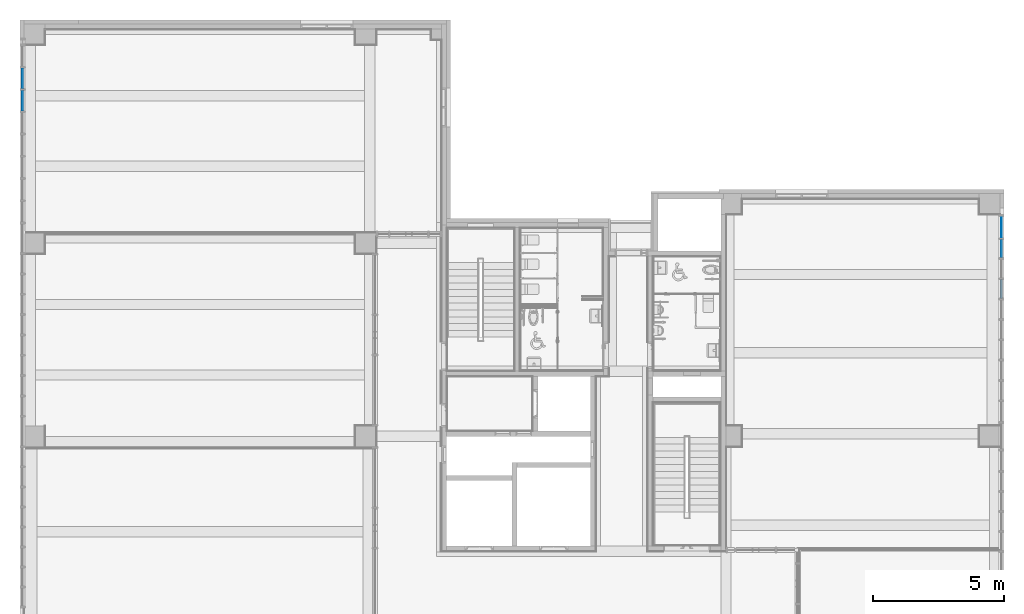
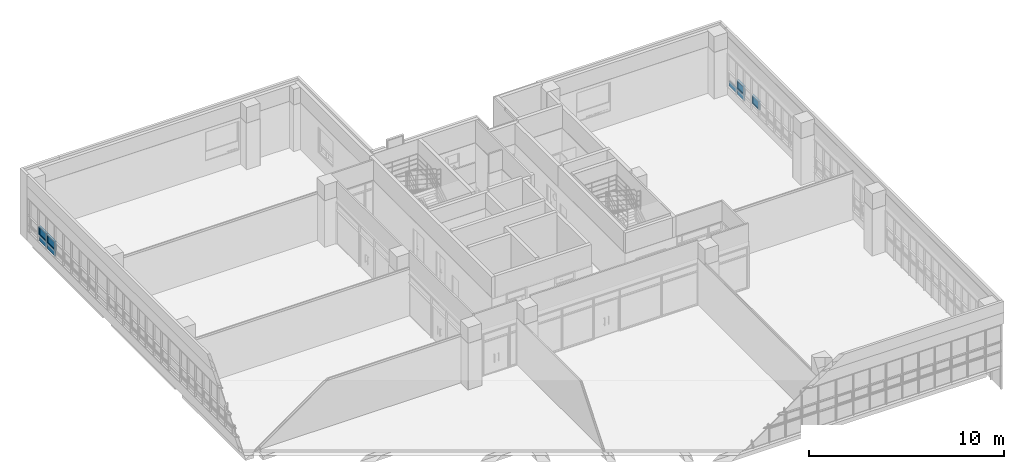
# One storey, part 40 of 81: 8 plates, 2 elements without a shape of their own.
"""IFC2X3 building model written with IfcOpenShell, lengths in millimetres."""

import ifcopenshell
import ifcopenshell.guid

model = None  # the IFC model being written
_history = None  # IfcOwnerHistory: only IFC2X3 demands one
_inside = {}  # id of a spatial element -> (the spatial element, [elements in it])
_under = {}  # id of a project, library or spatial element -> (it, [spatial elements below it])
_declared = {}  # id of a project -> (the project, [libraries it declares])
_typed = {}  # id of a type object -> (the type object, [elements of that type])
_made_of = {}  # id of a material, layer set ... -> (it, [elements and type objects made of it])


def new_model(schema):
    """Start an empty IFC model of exactly this schema.

    Asked for "IFC4X3", IfcOpenShell would pick the latest addendum, in which some entities
    have other attributes; the version numbers below select the first issue.
    IFC2X3 requires an IfcOwnerHistory on every rooted entity: one is made here for all.
    """
    global model, _history
    if schema == "IFC4X3":
        model = ifcopenshell.file(schema_version=(4, 3, 0, 0))
    else:
        model = ifcopenshell.file(schema=schema)
    _inside.clear()
    _under.clear()
    _declared.clear()
    _typed.clear()
    _made_of.clear()
    _history = None
    if model.schema == "IFC2X3":
        org = make("IfcOrganization", Name="unknown")
        user = make(
            "IfcPersonAndOrganization",
            ThePerson=make("IfcPerson", FamilyName="unknown"),
            TheOrganization=org,
        )
        app = make(
            "IfcApplication",
            ApplicationDeveloper=org,
            Version="unknown",
            ApplicationFullName="unknown",
            ApplicationIdentifier="unknown",
        )
        _history = make(
            "IfcOwnerHistory",
            OwningUser=user,
            OwningApplication=app,
            ChangeAction="ADDED",
            CreationDate=0,
        )
    return model


def make(cls, **values):
    """One entity of the class cls with the attributes given. An attribute that is None is left unset."""
    return model.create_entity(
        cls, **{name: value for name, value in values.items() if value is not None}
    )


def entity(cls, *values):
    """Any entity or typed value of the class cls, its attributes in the order of the schema. None: left unset."""
    e = model.create_entity(cls)
    for i, value in enumerate(values):
        if value is not None:
            e[i] = value
    return e


def rooted(cls, **values):
    """An entity with a GlobalId (a new one), such as an element, a storey or a relation."""
    return make(cls, GlobalId=ifcopenshell.guid.new(), OwnerHistory=_history, **values)


def si_unit(unit_type, name, prefix=None):
    """IfcSIUnit, for example si_unit("LENGTHUNIT", "METRE", prefix="MILLI")."""
    return make("IfcSIUnit", UnitType=unit_type, Prefix=prefix, Name=name)


def converted_unit(unit_type, name, factor, base, dimensions=None, offset=None):
    """IfcConversionBasedUnit, such as the inch: factor (a typed value) times the base unit."""
    return make(
        "IfcConversionBasedUnit"
        if offset is None
        else "IfcConversionBasedUnitWithOffset",
        ConversionOffset=offset,
        Dimensions=None
        if dimensions is None
        else entity("IfcDimensionalExponents", *dimensions),
        UnitType=unit_type,
        Name=name,
        ConversionFactor=make(
            "IfcMeasureWithUnit", ValueComponent=factor, UnitComponent=base
        ),
    )


def derived_unit(unit_type, elements):
    """IfcDerivedUnit: a product of units, each with its exponent."""
    return make(
        "IfcDerivedUnit",
        Elements=[
            make("IfcDerivedUnitElement", Unit=unit, Exponent=power)
            for unit, power in elements
        ],
        UnitType=unit_type,
    )


def assignment(units):
    """IfcUnitAssignment: the units of a project."""
    return None if units is None else make("IfcUnitAssignment", Units=units)


def point(xyz):
    """IfcCartesianPoint."""
    return None if xyz is None else make("IfcCartesianPoint", Coordinates=xyz)


def direction(xyz):
    """IfcDirection."""
    return None if xyz is None else make("IfcDirection", DirectionRatios=xyz)


def frame(location, z_axis=None, x_axis=None):
    """IfcAxis2Placement3D, a coordinate frame: its origin and axes. An axis left out is left unset."""
    return make(
        "IfcAxis2Placement3D",
        Location=point(location),
        Axis=direction(z_axis),
        RefDirection=direction(x_axis),
    )


def frame_2d(location, x_axis=None):
    """IfcAxis2Placement2D, a coordinate frame in the plane: its origin and x axis."""
    return make(
        "IfcAxis2Placement2D", Location=point(location), RefDirection=direction(x_axis)
    )


def origin():
    """The frame at (0, 0, 0) with its axes left unset."""
    return frame((0.0, 0.0, 0.0))


def origin_2d_with_axis():
    """The frame at (0, 0) in the plane with the x axis (1, 0) written out."""
    return frame_2d((0.0, 0.0), x_axis=(1.0, 0.0))


def place(relative_to, where):
    """IfcLocalPlacement: puts the frame where relative to a parent placement (None: the world)."""
    return make(
        "IfcLocalPlacement", PlacementRelTo=relative_to, RelativePlacement=where
    )


def context(
    kind, dimensions, precision=None, world=None, true_north=None, identifier=None
):
    """IfcGeometricRepresentationContext, for example the 3D "Model" context."""
    return make(
        "IfcGeometricRepresentationContext",
        ContextIdentifier=identifier,
        ContextType=kind,
        CoordinateSpaceDimension=dimensions,
        Precision=precision,
        WorldCoordinateSystem=world,
        TrueNorth=true_north,
    )


def subcontext(parent, identifier, kind, view, scale=None):
    """IfcGeometricRepresentationSubContext, for example "Body" below "Model"."""
    return make(
        "IfcGeometricRepresentationSubContext",
        ContextIdentifier=identifier,
        ContextType=kind,
        ParentContext=parent,
        TargetScale=scale,
        TargetView=view,
    )


def project(units=None, contexts=None):
    """IfcProject with its units and contexts."""
    return rooted(
        "IfcProject",
        Name="project",
        RepresentationContexts=contexts,
        UnitsInContext=assignment(units),
    )


def spatial(cls, under=None, at=None, **own):
    """A site, building, storey or space (cls), placed at a placement, below another one or the project."""
    s = rooted(cls, ObjectPlacement=at, **own)
    if under is not None:
        _under.setdefault(under.id(), (under, []))[1].append(s)
    return s


def polyline(points):
    """IfcPolyline through the points."""
    return make("IfcPolyline", Points=[point(p) for p in points])


def profile(cls, at=None, kind="AREA", **sizes):
    """A parametric profile (cls). Its sizes go by their IFC names, for example OverallWidth=200.0."""
    return make(cls, ProfileType=kind, Position=at, **sizes)


def rectangle(**sizes):
    """IfcRectangleProfileDef."""
    return profile("IfcRectangleProfileDef", **sizes)


def outline(outer, holes=None, kind="AREA"):
    """IfcArbitraryClosedProfileDef: a profile drawn as a closed curve; with holes, ...WithVoids."""
    if holes is None:
        return make("IfcArbitraryClosedProfileDef", ProfileType=kind, OuterCurve=outer)
    return make(
        "IfcArbitraryProfileDefWithVoids",
        ProfileType=kind,
        OuterCurve=outer,
        InnerCurves=holes,
    )


def extrude(swept, where, along, depth):
    """IfcExtrudedAreaSolid: the profile swept, set in the frame where, extruded along a direction by depth."""
    return make(
        "IfcExtrudedAreaSolid",
        SweptArea=swept,
        Position=where,
        ExtrudedDirection=direction(along),
        Depth=depth,
    )


def shape(context_of_items, identifier, shape_type, items):
    """IfcShapeRepresentation: the items that make up one representation, for example the "Body"."""
    return make(
        "IfcShapeRepresentation",
        ContextOfItems=context_of_items,
        RepresentationIdentifier=identifier,
        RepresentationType=shape_type,
        Items=items,
    )


def source(mapping_origin, context_of_items, identifier, shape_type, items):
    """IfcRepresentationMap: a shape defined once, which mapped items show again and again."""
    return make(
        "IfcRepresentationMap",
        MappingOrigin=mapping_origin,
        MappedRepresentation=shape(context_of_items, identifier, shape_type, items),
    )


def transform(
    local_origin,
    x_axis=None,
    y_axis=None,
    z_axis=None,
    scale=None,
    scale2=None,
    scale3=None,
    uniform=True,
):
    """IfcCartesianTransformationOperator3D, or its non-uniform kind. x_axis, y_axis, z_axis: its Axis1, 2, 3."""
    if uniform:
        return make(
            "IfcCartesianTransformationOperator3D",
            Axis1=direction(x_axis),
            Axis2=direction(y_axis),
            LocalOrigin=point(local_origin),
            Scale=scale,
            Axis3=direction(z_axis),
        )
    return make(
        "IfcCartesianTransformationOperator3DnonUniform",
        Axis1=direction(x_axis),
        Axis2=direction(y_axis),
        LocalOrigin=point(local_origin),
        Scale=scale,
        Axis3=direction(z_axis),
        Scale2=scale2,
        Scale3=scale3,
    )


def mapped(mapping_source, mapping_target):
    """IfcMappedItem: shows the shape of a source again, moved by a transform."""
    return make(
        "IfcMappedItem", MappingSource=mapping_source, MappingTarget=mapping_target
    )


def material(Name=None, Category=None):
    """IfcMaterial."""
    return make("IfcMaterial", Name=Name, Category=Category)


def material_list(materials):
    """IfcMaterialList."""
    return make("IfcMaterialList", Materials=materials)


def made_of(thing, what):
    """Note that an element or type object is made of a material, layer set ...; save() writes the relation."""
    if what is not None:
        _made_of.setdefault(what.id(), (what, []))[1].append(thing)
    return thing


def type_object(cls, material=None, **own):
    """A type object (cls), such as IfcWallType, which elements share."""
    return made_of(rooted(cls, **own), material)


def type_shapes(of_type, sources):
    """Give a type object the sources (RepresentationMaps) that its elements show as mapped items."""
    of_type.RepresentationMaps = sources


def element(
    cls,
    number,
    at=None,
    inside=None,
    cuts=None,
    type_object=None,
    material=None,
    context=None,
    identifier="Body",
    shape_type=None,
    held_by="IfcProductDefinitionShape",
    body=None,
    shapes=None,
    **own,
):
    """One element of the class cls, such as IfcWall. Its Tag is "e" and its number.

    at: its placement. inside: the storey or other place that contains it. cuts: it is an
    opening in that element (IfcRelVoidsElement). A single representation is given by context,
    identifier, shape_type and body (its items); several are given by shapes. held_by: the class
    of the entity that holds the representations. save() writes the other relations.
    """
    e = rooted(cls, Tag="e%d" % number, ObjectPlacement=at, **own)
    if body is not None:
        shapes = [shape(context, identifier, shape_type, body)]
    if shapes is not None:
        e.Representation = make(held_by, Representations=shapes)
    if inside is not None:
        _inside.setdefault(inside.id(), (inside, []))[1].append(e)
    if cuts is not None:
        rooted(
            "IfcRelVoidsElement", RelatingBuildingElement=cuts, RelatedOpeningElement=e
        )
    if type_object is not None:
        _typed.setdefault(type_object.id(), (type_object, []))[1].append(e)
    return made_of(e, material)


def aggregate(whole, parts):
    """IfcRelAggregates: a whole, such as a stair, and the parts it consists of."""
    return rooted("IfcRelAggregates", RelatingObject=whole, RelatedObjects=parts)


def save(model, path):
    """Write the relations noted so far, then the file.

    IfcRelAggregates (storeys below a building ...), IfcRelContainedInSpatialStructure (elements
    in a storey), IfcRelDefinesByType, IfcRelAssociatesMaterial and IfcRelDeclares: one each for
    every whole, place, type object, material and project.
    """
    for whole, parts in _under.values():
        aggregate(whole, parts)
    for where, things in _inside.values():
        rooted(
            "IfcRelContainedInSpatialStructure",
            RelatedElements=things,
            RelatingStructure=where,
        )
    for kind, things in _typed.values():
        rooted("IfcRelDefinesByType", RelatedObjects=things, RelatingType=kind)
    for what, things in _made_of.values():
        rooted("IfcRelAssociatesMaterial", RelatedObjects=things, RelatingMaterial=what)
    for by, libraries in _declared.values():
        rooted("IfcRelDeclares", RelatingContext=by, RelatedDefinitions=libraries)
    model.write(path)


model = new_model("IFC2X3")

# Units and contexts
model_context = context("Model", 3, precision=0.01, world=origin(), true_north=direction((6.123031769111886e-17, 1.0)))
body_context = subcontext(model_context, "Body", "Model", "MODEL_VIEW")
ifc_project = project(units=[si_unit("LENGTHUNIT", "METRE", prefix="MILLI"), si_unit("AREAUNIT", "SQUARE_METRE"), si_unit("VOLUMEUNIT", "CUBIC_METRE"), converted_unit("PLANEANGLEUNIT", "DEGREE", entity("IfcRatioMeasure", 0.017453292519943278), si_unit("PLANEANGLEUNIT", "RADIAN"), dimensions=[0, 0, 0, 0, 0, 0, 0]), si_unit("MASSUNIT", "GRAM", prefix="KILO"), derived_unit("MASSDENSITYUNIT", [(si_unit("MASSUNIT", "GRAM", prefix="KILO"), 1), (si_unit("LENGTHUNIT", "METRE"), -3)]), derived_unit("MOMENTOFINERTIAUNIT", [(si_unit("LENGTHUNIT", "METRE"), 4)]), si_unit("TIMEUNIT", "SECOND"), si_unit("FREQUENCYUNIT", "HERTZ"), si_unit("THERMODYNAMICTEMPERATUREUNIT", "DEGREE_CELSIUS"), derived_unit("THERMALTRANSMITTANCEUNIT", [(si_unit("MASSUNIT", "GRAM", prefix="KILO"), 1), (si_unit("THERMODYNAMICTEMPERATUREUNIT", "KELVIN"), -1), (si_unit("TIMEUNIT", "SECOND"), -3)]), derived_unit("VOLUMETRICFLOWRATEUNIT", [(si_unit("LENGTHUNIT", "METRE"), 3), (si_unit("TIMEUNIT", "SECOND"), -1)]), derived_unit("MASSFLOWRATEUNIT", [(si_unit("MASSUNIT", "GRAM", prefix="KILO"), 1), (si_unit("TIMEUNIT", "SECOND"), -1)]), derived_unit("ROTATIONALFREQUENCYUNIT", [(si_unit("TIMEUNIT", "SECOND"), -1)]), si_unit("ELECTRICCURRENTUNIT", "AMPERE"), si_unit("ELECTRICVOLTAGEUNIT", "VOLT"), si_unit("POWERUNIT", "WATT"), si_unit("FORCEUNIT", "NEWTON", prefix="KILO"), si_unit("ILLUMINANCEUNIT", "LUX"), si_unit("LUMINOUSFLUXUNIT", "LUMEN"), si_unit("LUMINOUSINTENSITYUNIT", "CANDELA"), derived_unit("USERDEFINED", [(si_unit("MASSUNIT", "GRAM", prefix="KILO"), -1), (si_unit("LENGTHUNIT", "METRE"), -2), (si_unit("TIMEUNIT", "SECOND"), 3), (si_unit("LUMINOUSFLUXUNIT", "LUMEN"), 1)]), derived_unit("SOUNDPOWERUNIT", [(si_unit("MASSUNIT", "GRAM", prefix="KILO"), 1), (si_unit("LENGTHUNIT", "METRE"), 2), (si_unit("TIMEUNIT", "SECOND"), -3)]), derived_unit("SOUNDPRESSUREUNIT", [(si_unit("MASSUNIT", "GRAM", prefix="KILO"), 1), (si_unit("LENGTHUNIT", "METRE"), -1), (si_unit("TIMEUNIT", "SECOND"), -2)]), derived_unit("LINEARVELOCITYUNIT", [(si_unit("LENGTHUNIT", "METRE"), 1), (si_unit("TIMEUNIT", "SECOND"), -1)]), si_unit("PRESSUREUNIT", "PASCAL"), derived_unit("USERDEFINED", [(si_unit("LENGTHUNIT", "METRE"), -2), (si_unit("MASSUNIT", "GRAM", prefix="KILO"), 1), (si_unit("TIMEUNIT", "SECOND"), -2)]), derived_unit("LINEARFORCEUNIT", [(si_unit("MASSUNIT", "GRAM", prefix="KILO"), 1), (si_unit("LENGTHUNIT", "METRE"), 1), (si_unit("TIMEUNIT", "SECOND"), -2), (si_unit("LENGTHUNIT", "METRE"), -1)]), derived_unit("PLANARFORCEUNIT", [(si_unit("MASSUNIT", "GRAM", prefix="KILO"), 1), (si_unit("LENGTHUNIT", "METRE"), 1), (si_unit("TIMEUNIT", "SECOND"), -2), (si_unit("LENGTHUNIT", "METRE"), -2)])], contexts=[model_context])

# Site, building, storey
site_placement = place(None, frame((-14167.972527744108, -657.2125860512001, 0.0)))
site = spatial("IfcSite", under=ifc_project, at=site_placement, Name="Default", CompositionType="ELEMENT")
building_placement = place(site_placement, origin())
building = spatial("IfcBuilding", under=site, at=building_placement, Name="Sample Building", CompositionType="ELEMENT")
storey_placement = place(building_placement, frame((0.0, 0.0, 13400.0)))
storey = spatial("IfcBuildingStorey", under=building, at=storey_placement, Name="지상 4층", CompositionType="ELEMENT", Elevation=13400.00000000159)

# Curtain wall, plates
curtain_wall_type = type_object("IfcCurtainWallType", Name="커튼월:CW112-스테인리스 스틸 커튼월", PredefinedType="NOTDEFINED")
curtain_wall_1_placement = place(storey_placement, frame((0.0, 0.0, -13400.0)))
curtain_wall_1 = element("IfcCurtainWall", 1, at=curtain_wall_1_placement, inside=storey, type_object=curtain_wall_type, Name="커튼월:CW112-스테인리스 스틸 커튼월", ObjectType="커튼월:CW112-스테인리스 스틸 커튼월")
ifc_material_1 = material(Name="KBIMS-로이유리(코팅)")
plate_type_1 = type_object("IfcPlateType", Name="CW300-THK24.Low-e coating glass:CW300-THK24.Low-e coating glass", PredefinedType="CURTAIN_PANEL", material=ifc_material_1)
shared_shape_1 = source(origin(), body_context, "Body", "SweptSolid", [
    extrude(rectangle(XDim=803.5000000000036, YDim=24.000000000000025, at=origin_2d_with_axis()), frame((0.0, 0.0, 0.0), z_axis=(0.0, 0.0, 1.0), x_axis=(-1.0, 0.0, 0.0)), (0.0, 0.0, 1.0), 324.9999999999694),
])
type_shapes(plate_type_1, [shared_shape_1])
plate_1_placement = place(curtain_wall_1_placement, frame((14018.570555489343, 33673.56770709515, 14050.0), z_axis=(0.0, 0.0, 1.0), x_axis=(0.0, -1.0, 0.0)))
plate_1 = element("IfcPlate", 2, at=plate_1_placement, type_object=plate_type_1, material=ifc_material_1, Name="CW300-THK24.Low-e coating glass:CW300-THK24.Low-e coating glass", ObjectType="CW300-THK24.Low-e coating glass:CW300-THK24.Low-e coating glass", context=body_context, shape_type="MappedRepresentation", body=[
    mapped(shared_shape_1, transform((0.0, 0.0, 0.0), scale=1.0)),
])
plate_2_placement = place(curtain_wall_1_placement, frame((14018.570555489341, 32820.06770709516, 14050.0), z_axis=(0.0, 0.0, 1.0), x_axis=(0.0, -1.0, 0.0)))
plate_2 = element("IfcPlate", 3, at=plate_2_placement, type_object=plate_type_1, material=ifc_material_1, Name="CW300-THK24.Low-e coating glass:CW300-THK24.Low-e coating glass", ObjectType="CW300-THK24.Low-e coating glass:CW300-THK24.Low-e coating glass", context=body_context, shape_type="MappedRepresentation", body=[
    mapped(shared_shape_1, transform((0.0, 0.0, 0.0), scale=1.0)),
])
ifc_material_2 = material(Name="KBIMS-유리")
ifc_material_3 = material(Name="KBIMS-알루미늄")
ifc_material_list_1 = material_list([ifc_material_2, ifc_material_3])
ifc_material_list_2 = material_list([ifc_material_2, ifc_material_3])
plate_type_2 = type_object("IfcPlateType", Name="CW410-프로젝트 창:CW410-프로젝트 창 (하부개폐)", PredefinedType="CURTAIN_PANEL", material=ifc_material_list_2)
shared_shape_2 = source(origin(), body_context, "Body", "SweptSolid", [
    extrude(rectangle(XDim=703.5000000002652, YDim=23.999999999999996, at=origin_2d_with_axis()), frame((0.0, -0.04999999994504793, 50.0), z_axis=(0.0, 0.0, 1.0), x_axis=(-1.0, 0.0, 0.0)), (0.0, 0.0, 1.0), 450.00000000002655),
    extrude(outline(polyline([(-401.750000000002, -275.0), (401.750000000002, -275.0), (401.750000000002, 275.0), (-401.750000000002, 275.0), (-401.750000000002, -275.0)]), holes=[polyline([(-351.75000000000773, -225.0), (-351.7500000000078, 225.0), (351.7500000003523, 225.0), (351.75000000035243, -225.0), (-351.75000000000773, -225.0)])]), frame((0.0, -50.04999999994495, 275.0), z_axis=(0.0, 1.0, 0.0), x_axis=(1.0, 0.0, 0.0)), (0.0, 0.0, 1.0), 99.99999999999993),
])
type_shapes(plate_type_2, [shared_shape_2])
plate_3_placement = place(curtain_wall_1_placement, frame((14018.570555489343, 33673.56770709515, 14425.0), z_axis=(0.0, 0.0, 1.0), x_axis=(0.0, -1.0, 0.0)))
plate_3 = element("IfcPlate", 4, at=plate_3_placement, type_object=plate_type_2, material=ifc_material_list_1, Name="CW410-프로젝트 창:CW410-프로젝트 창 (하부개폐)", ObjectType="CW410-프로젝트 창:CW410-프로젝트 창 (하부개폐)", context=body_context, shape_type="MappedRepresentation", body=[
    mapped(shared_shape_2, transform((0.0, 0.0, 0.0), scale=1.0)),
])
ifc_material_list_3 = material_list([ifc_material_2, ifc_material_3])
plate_4_placement = place(curtain_wall_1_placement, frame((14018.570555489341, 32820.06770709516, 14425.0), z_axis=(0.0, 0.0, 1.0), x_axis=(0.0, -1.0, 0.0)))
plate_4 = element("IfcPlate", 5, at=plate_4_placement, type_object=plate_type_2, material=ifc_material_list_3, Name="CW410-프로젝트 창:CW410-프로젝트 창 (하부개폐)", ObjectType="CW410-프로젝트 창:CW410-프로젝트 창 (하부개폐)", context=body_context, shape_type="MappedRepresentation", body=[
    mapped(shared_shape_2, transform((0.0, 0.0, 0.0), scale=1.0)),
])
aggregate(curtain_wall_1, [plate_1, plate_2, plate_3, plate_4])

curtain_wall_2_placement = place(storey_placement, frame((0.0, 0.0, -13400.0)))
curtain_wall_2 = element("IfcCurtainWall", 6, at=curtain_wall_2_placement, inside=storey, type_object=curtain_wall_type, Name="커튼월:CW112-스테인리스 스틸 커튼월", ObjectType="커튼월:CW112-스테인리스 스틸 커튼월")
ifc_material_list_4 = material_list([ifc_material_2, ifc_material_3])
ifc_material_list_5 = material_list([ifc_material_2, ifc_material_3])
plate_type_3 = type_object("IfcPlateType", Name="CW410-프로젝트 창:CW410-프로젝트 창 (하부개폐)", PredefinedType="CURTAIN_PANEL", material=ifc_material_list_5)
shared_shape_3 = source(origin(), body_context, "Body", "SweptSolid", [
    extrude(rectangle(XDim=23.999999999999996, YDim=600.0000000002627, at=origin_2d_with_axis()), frame((0.0, 0.04999999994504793, 50.0), z_axis=(0.0, 0.0, 1.0), x_axis=(0.0, 1.0, 0.0)), (0.0, 0.0, 1.0), 450.0000000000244),
    extrude(outline(polyline([(-350.0, -275.0), (350.0, -275.0), (350.0, 275.0), (-350.0, 275.0), (-350.0, -275.0)]), holes=[polyline([(-300.0, -225.0), (-300.0, 225.0), (300.0, 225.0), (300.0, -225.0), (-300.0, -225.0)])]), frame((0.0, -49.95000000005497, 275.0), z_axis=(0.0, 1.0, 0.0), x_axis=(1.0, 0.0, 0.0)), (0.0, 0.0, 1.0), 99.99999999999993),
])
type_shapes(plate_type_3, [shared_shape_3])
plate_5_placement = place(curtain_wall_2_placement, frame((51517.96382893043, 27148.71229514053, 14425.0), z_axis=(0.0, 0.0, 1.0), x_axis=(0.0, -1.0, 0.0)))
plate_5 = element("IfcPlate", 7, at=plate_5_placement, type_object=plate_type_3, material=ifc_material_list_4, Name="CW410-프로젝트 창:CW410-프로젝트 창 (하부개폐)", ObjectType="CW410-프로젝트 창:CW410-프로젝트 창 (하부개폐)", context=body_context, shape_type="MappedRepresentation", body=[
    mapped(shared_shape_3, transform((0.0, 0.0, 0.0), scale=1.0)),
])
ifc_material_list_6 = material_list([ifc_material_2, ifc_material_3])
ifc_material_list_7 = material_list([ifc_material_2, ifc_material_3])
plate_type_4 = type_object("IfcPlateType", Name="CW410-프로젝트 창:CW410-프로젝트 창 (하부개폐)", PredefinedType="CURTAIN_PANEL", material=ifc_material_list_7)
shared_shape_4 = source(origin(), body_context, "Body", "SweptSolid", [
    extrude(rectangle(XDim=23.999999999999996, YDim=629.0000000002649, at=origin_2d_with_axis()), frame((0.0, 0.04999999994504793, 50.0), z_axis=(0.0, 0.0, 1.0), x_axis=(0.0, 1.0, 0.0)), (0.0, 0.0, 1.0), 450.0000000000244),
    extrude(outline(polyline([(-364.5000000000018, -275.0), (364.5000000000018, -275.0), (364.5000000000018, 275.0), (-364.5000000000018, 275.0), (-364.5000000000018, -275.0)]), holes=[polyline([(-314.50000000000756, -225.0), (-314.5000000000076, 225.0), (314.5000000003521, 225.0), (314.50000000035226, -225.0), (-314.50000000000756, -225.0)])]), frame((0.0, -49.95000000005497, 275.0), z_axis=(0.0, 1.0, 0.0), x_axis=(1.0, 0.0, 0.0)), (0.0, 0.0, 1.0), 99.99999999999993),
])
type_shapes(plate_type_4, [shared_shape_4])
plate_6_placement = place(curtain_wall_2_placement, frame((51517.96382893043, 25605.212295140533, 14425.0), z_axis=(0.0, 0.0, 1.0), x_axis=(0.0, -1.0, 0.0)))
plate_6 = element("IfcPlate", 8, at=plate_6_placement, type_object=plate_type_4, material=ifc_material_list_6, Name="CW410-프로젝트 창:CW410-프로젝트 창 (하부개폐)", ObjectType="CW410-프로젝트 창:CW410-프로젝트 창 (하부개폐)", context=body_context, shape_type="MappedRepresentation", body=[
    mapped(shared_shape_4, transform((0.0, 0.0, 0.0), scale=1.0)),
])
plate_type_5 = type_object("IfcPlateType", Name="CW300-THK24.Low-e coating glass:CW300-THK24.Low-e coating glass", PredefinedType="CURTAIN_PANEL", material=ifc_material_1)
shared_shape_5 = source(origin(), body_context, "Body", "SweptSolid", [
    extrude(rectangle(XDim=24.000000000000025, YDim=840.5004098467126, at=origin_2d_with_axis()), frame((0.0, 0.0, 0.0), z_axis=(0.0, 0.0, 1.0), x_axis=(0.0, 1.0, 0.0)), (0.0, 0.0, 1.0), 324.9999999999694),
])
type_shapes(plate_type_5, [shared_shape_5])
plate_7_placement = place(curtain_wall_2_placement, frame((51517.96382893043, 27968.962500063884, 14050.0), z_axis=(0.0, 0.0, 1.0), x_axis=(0.0, -1.0, 0.0)))
plate_7 = element("IfcPlate", 9, at=plate_7_placement, type_object=plate_type_5, material=ifc_material_1, Name="CW300-THK24.Low-e coating glass:CW300-THK24.Low-e coating glass", ObjectType="CW300-THK24.Low-e coating glass:CW300-THK24.Low-e coating glass", context=body_context, shape_type="MappedRepresentation", body=[
    mapped(shared_shape_5, transform((0.0, 0.0, 0.0), scale=1.0)),
])
plate_type_6 = type_object("IfcPlateType", Name="CW300-THK24.Low-e coating glass:CW300-THK24.Low-e coating glass", PredefinedType="CURTAIN_PANEL", material=ifc_material_1)
shared_shape_6 = source(origin(), body_context, "Body", "SweptSolid", [
    extrude(rectangle(XDim=24.000000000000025, YDim=700.0000000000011, at=origin_2d_with_axis()), frame((0.0, 0.0, 0.0), z_axis=(0.0, 0.0, 1.0), x_axis=(0.0, 1.0, 0.0)), (0.0, 0.0, 1.0), 324.9999999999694),
])
type_shapes(plate_type_6, [shared_shape_6])
plate_8_placement = place(curtain_wall_2_placement, frame((51517.96382893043, 27148.71229514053, 14050.0), z_axis=(0.0, 0.0, 1.0), x_axis=(0.0, -1.0, 0.0)))
plate_8 = element("IfcPlate", 10, at=plate_8_placement, type_object=plate_type_6, material=ifc_material_1, Name="CW300-THK24.Low-e coating glass:CW300-THK24.Low-e coating glass", ObjectType="CW300-THK24.Low-e coating glass:CW300-THK24.Low-e coating glass", context=body_context, shape_type="MappedRepresentation", body=[
    mapped(shared_shape_6, transform((0.0, 0.0, 0.0), scale=1.0)),
])
aggregate(curtain_wall_2, [plate_7, plate_8, plate_5, plate_6])

save(model, "model.ifc")
